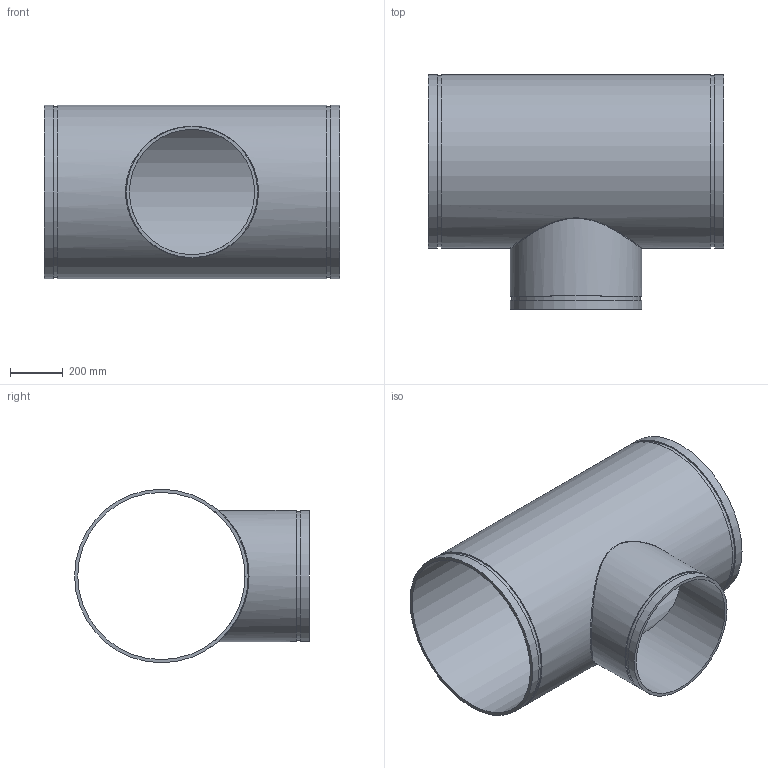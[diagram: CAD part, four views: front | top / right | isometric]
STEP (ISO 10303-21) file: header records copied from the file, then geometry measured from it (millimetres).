
FILE_DESCRIPTION(/* description */ ('VIC REDUCING TEE No 25-C','CAx-IF Rec.Pracs.---Representation and Presentation of Product Manufacturing Information (PMI)---4.0---2014-10-13'),/* implementation_level */ '2;1');
FILE_NAME(/* name */ 'C:\Users\Vjadhav\AppData\Roaming\Autodesk\ApplicationPlugins\Back Up\Victaulic_AWWA_Tee Reducing_No 25-C (DRG)\Victaulic_AWWA_Tee Reducing_No 25-C (DRG)_24.0x18.0 (600x450).stp',/* time_stamp */ '2020-08-18T18:19:03+06:00',/* author */ ('CORINNE GRAY'),/* organization */ ('Victaulic'),/* preprocessor_version */ 'ST-DEVELOPER v17.2',/* originating_system */ 'Autodesk Inventor 2019',/* authorisation */ '');
FILE_SCHEMA (('AP242_MANAGED_MODEL_BASED_3D_ENGINEERING_MIM_LF { 1 0 10303 442 1 1 4 }'));
Length unit declared in the file: inch
Products named in the file (1): 25C-24.0x18.0
Bounding box: 1117.6 x 886.46 x 655.32 mm (x, y, z)
Volume: 29038581.6 mm3; surface area: 5113111.8 mm2
Topology: 1 solids, 1 shells, 20 faces, 44 edges, 33 vertices
Faces by surface type: cylinder 10, plane 9, bspline 1
Full cylindrical faces by diameter (mm): 472.948 x1, 485.775 x1, 495.3 x2, 631.444 x1, 645.312 x2, 655.32 x3
Entity records: 1211 total; most frequent: CARTESIAN_POINT 587, DIRECTION 135, ORIENTED_EDGE 90, AXIS2_PLACEMENT_3D 62, EDGE_CURVE 45, VERTEX_POINT 34, EDGE_LOOP 31, CIRCLE 29
